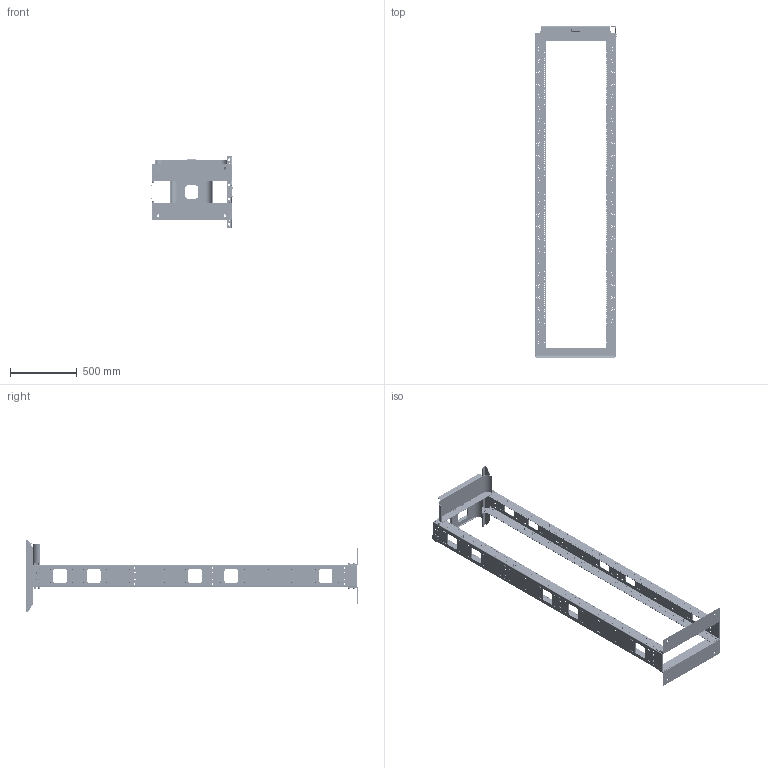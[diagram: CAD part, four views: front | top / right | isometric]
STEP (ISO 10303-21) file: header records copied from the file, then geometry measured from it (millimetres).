
FILE_DESCRIPTION (( 'STEP AP203' ), '1' );
FILE_NAME ('m966b51.STEP', '2012-02-01T18:00:46', ( 'Hoffman User' ), ( 'Hoffman Enclosures' ), 'SwSTEP 2.0', 'SolidWorks 2010', '' );
FILE_SCHEMA (( 'CONFIG_CONTROL_DESIGN' ));
Products named in the file (14): m966b51; 89083320; 89083321_BIG openings; 89080190_PEM H-0616 X--N; 89081938; 89080029; 89081940; 89080032_87952138; 89080182_HBOLT 0.3750-16x0.75x0.75-N; 89080187; 87928600; 87922662_87547883; 89082750; 87780078
Assembly tree (52 placements, depth 3):
  m966b51
    89080182_HBOLT 0.3750-16x0.75x0.75-N  x16
    89080187  x16
    89083320  x2
      89080190_PEM H-0616 X--N
      89083321_BIG openings
    89080032_87952138  x2
    87928600
    89081940
    87922662_87547883
    89080029
    89082750
    89081938
    87780078
Bounding box: 615.86 x 2492.38 x 533.4 mm (x, y, z)
Volume: 7054506.4 mm3; surface area: 4161859.5 mm2
Topology: 59 solids, 59 shells, 15221 faces, 40840 edges, 26859 vertices
Faces by surface type: plane 7668, cylinder 4618, bspline 2478, cone 457
Entity records: 265812 total; most frequent: CARTESIAN_POINT 114143, ORIENTED_EDGE 32708, DIRECTION 26594, EDGE_CURVE 16354, VERTEX_POINT 10794, VECTOR 9800, LINE 9800, AXIS2_PLACEMENT_3D 8397
